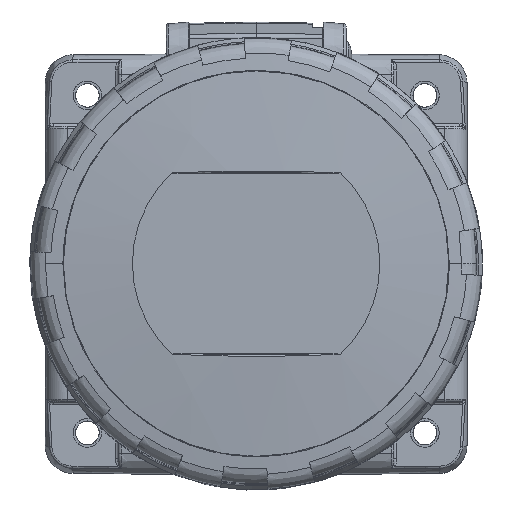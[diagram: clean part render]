
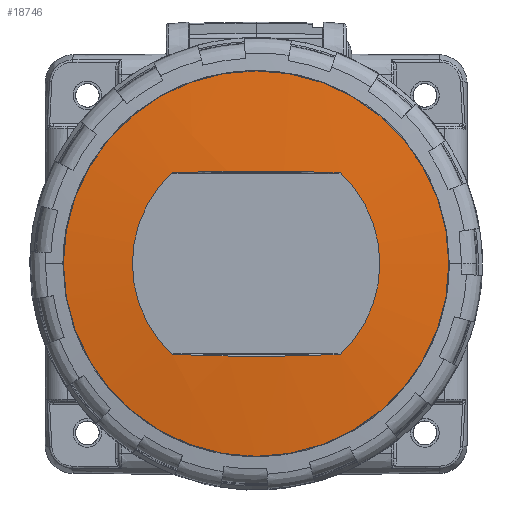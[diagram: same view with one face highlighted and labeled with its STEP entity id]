
A CAD part, top view. The second image highlights one B-rep face of the part: STEP entity #18746.
In plain terms, the highlighted spherical face has radius 291.997 mm.
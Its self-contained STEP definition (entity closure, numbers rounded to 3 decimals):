
#1237=SPHERICAL_SURFACE('',#73167,291.997);
#3361=FACE_BOUND('',#27088,.T.);
#3362=FACE_BOUND('',#27089,.T.);
#6372=CIRCLE('',#73162,34.266);
#6373=CIRCLE('',#73163,233.91);
#6374=CIRCLE('',#73164,22.001);
#6375=CIRCLE('',#73165,233.909);
#6376=CIRCLE('',#73166,22.001);
#18746=ADVANCED_FACE('',(#3361,#3362),#1237,.T.);
#27088=EDGE_LOOP('',(#44564));
#27089=EDGE_LOOP('',(#44565,#44566,#44567,#44568));
#44564=ORIENTED_EDGE('',*,*,#62912,.T.);
#44565=ORIENTED_EDGE('',*,*,#62913,.F.);
#44566=ORIENTED_EDGE('',*,*,#62914,.F.);
#44567=ORIENTED_EDGE('',*,*,#62915,.F.);
#44568=ORIENTED_EDGE('',*,*,#62916,.F.);
#53522=VERTEX_POINT('',#179591);
#53523=VERTEX_POINT('',#179593);
#53524=VERTEX_POINT('',#179594);
#53525=VERTEX_POINT('',#179596);
#53526=VERTEX_POINT('',#179598);
#62912=EDGE_CURVE('',#53522,#53522,#6372,.T.);
#62913=EDGE_CURVE('',#53523,#53524,#6373,.T.);
#62914=EDGE_CURVE('',#53525,#53523,#6374,.T.);
#62915=EDGE_CURVE('',#53526,#53525,#6375,.T.);
#62916=EDGE_CURVE('',#53524,#53526,#6376,.T.);
#73162=AXIS2_PLACEMENT_3D('',#179590,#87584,#87585);
#73163=AXIS2_PLACEMENT_3D('',#179592,#87586,#87587);
#73164=AXIS2_PLACEMENT_3D('',#179595,#87588,#87589);
#73165=AXIS2_PLACEMENT_3D('',#179597,#87590,#87591);
#73166=AXIS2_PLACEMENT_3D('',#179599,#87592,#87593);
#73167=AXIS2_PLACEMENT_3D('',#179600,#87594,#87595);
#87584=DIRECTION('',(0.,0.,1.));
#87585=DIRECTION('',(0.,1.,0.));
#87586=DIRECTION('',(0.,0.766,0.643));
#87587=DIRECTION('',(0.,-0.643,0.766));
#87588=DIRECTION('',(0.,0.,1.));
#87589=DIRECTION('',(0.,1.,0.));
#87590=DIRECTION('',(0.,-0.766,0.643));
#87591=DIRECTION('',(0.,-0.643,-0.766));
#87592=DIRECTION('',(0.,0.,1.));
#87593=DIRECTION('',(0.,1.,0.));
#87594=DIRECTION('',(1.,0.,0.));
#87595=DIRECTION('',(0.,1.,0.));
#179590=CARTESIAN_POINT('',(0.,0.,13.083));
#179591=CARTESIAN_POINT('',(0.,34.266,13.083));
#179592=CARTESIAN_POINT('',(0.,133.891,-164.55));
#179593=CARTESIAN_POINT('',(-14.933,-16.157,14.27));
#179594=CARTESIAN_POINT('',(14.933,-16.157,14.27));
#179595=CARTESIAN_POINT('',(0.,0.,14.27));
#179596=CARTESIAN_POINT('',(-14.933,16.157,14.27));
#179597=CARTESIAN_POINT('',(0.,-133.89,-164.549));
#179598=CARTESIAN_POINT('',(14.933,16.157,14.27));
#179599=CARTESIAN_POINT('',(0.,0.,14.27));
#179600=CARTESIAN_POINT('',(0.,0.,-276.897));
